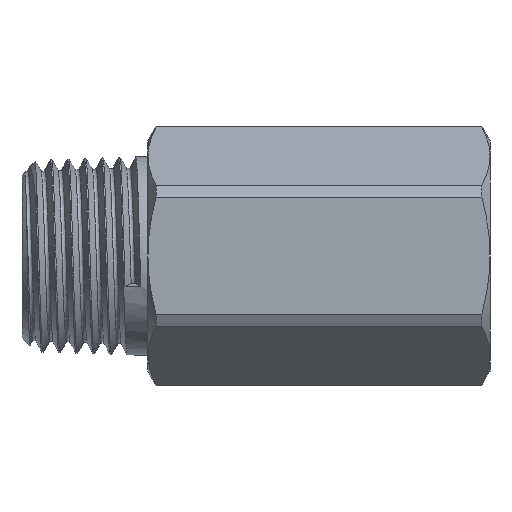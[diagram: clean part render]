
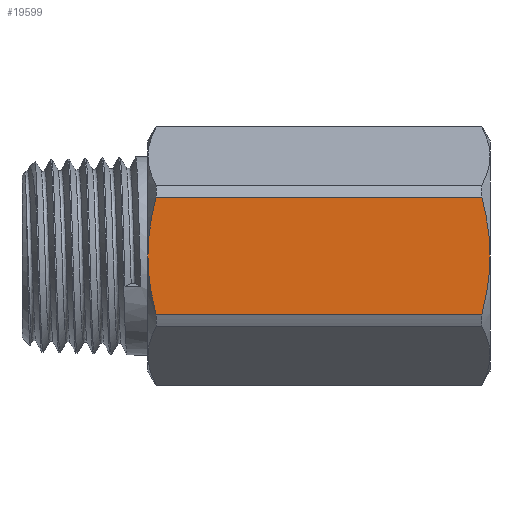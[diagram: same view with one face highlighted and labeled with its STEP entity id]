
A CAD part, front view. The second image highlights one B-rep face of the part: STEP entity #19599.
In plain terms, the highlighted planar face has unit normal (0, -1, 0).
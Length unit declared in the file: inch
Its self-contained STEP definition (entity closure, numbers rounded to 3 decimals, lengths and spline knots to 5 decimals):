
#250 = DIRECTION ( 'NONE',  ( 1., 0., 0. ) ) ;
#335 = B_SPLINE_CURVE_WITH_KNOTS ( 'NONE', 3,
 ( #23536, #8799, #14886, #5995, #4013, #17004, #4144, #25806, #12761, #10506, #3869, #2009, #8665, #19561, #4277, #10377 ),
 .UNSPECIFIED., .F., .F.,
 ( 4, 2, 2, 2, 1, 1, 2, 2, 4 ),
 ( 0., 0.125, 0.25, 0.375, 0.4375, 0.46875, 0.48437, 0.5, 1. ),
 .UNSPECIFIED. ) ;
#450 = VERTEX_POINT ( 'NONE', #26787 ) ;
#624 = B_SPLINE_CURVE_WITH_KNOTS ( 'NONE', 3,
 ( #3698, #20965, #23099, #7537, #25221, #3153, #1153, #7954, #22547, #27079, #1293, #5411, #3422, #18701, #12181, #16011, #20692, #12313, #14302 ),
 .UNSPECIFIED., .F., .F.,
 ( 4, 2, 2, 1, 2, 2, 2, 2, 2, 4 ),
 ( 0., 0.25, 0.375, 0.4375, 0.46875, 0.5, 0.625, 0.6875, 0.75, 1. ),
 .UNSPECIFIED. ) ;
#794 = CARTESIAN_POINT ( 'NONE',  ( -0.35567, -0.48228, 0.24587 ) ) ;
#1064 = VERTEX_POINT ( 'NONE', #15086 ) ;
#1153 = CARTESIAN_POINT ( 'NONE',  ( -0.3781, -0.48228, -0.14119 ) ) ;
#1249 = CARTESIAN_POINT ( 'NONE',  ( 1.03427, -0.48228, 0.12388 ) ) ;
#1293 = CARTESIAN_POINT ( 'NONE',  ( -0.38225, -0.48228, -0.11326 ) ) ;
#1835 = CARTESIAN_POINT ( 'NONE',  ( 1.04331, -0.48228, 0. ) ) ;
#1925 = ORIENTED_EDGE ( 'NONE', *, *, #3492, .T. ) ;
#2009 = CARTESIAN_POINT ( 'NONE',  ( -0.38103, -0.48228, 0.12174 ) ) ;
#2108 = CARTESIAN_POINT ( 'NONE',  ( 1.00921, -0.48228, -0.24587 ) ) ;
#2516 = CARTESIAN_POINT ( 'NONE',  ( 1.04331, -0.48228, 0. ) ) ;
#3153 = CARTESIAN_POINT ( 'NONE',  ( -0.37684, -0.48228, -0.14874 ) ) ;
#3422 = CARTESIAN_POINT ( 'NONE',  ( -0.38523, -0.48228, -0.08757 ) ) ;
#3492 = EDGE_CURVE ( 'NONE', #17497, #1064, #24114, .T. ) ;
#3516 = CARTESIAN_POINT ( 'NONE',  ( 1.00921, -0.48228, 0.24587 ) ) ;
#3698 = CARTESIAN_POINT ( 'NONE',  ( -0.35567, -0.48228, -0.24587 ) ) ;
#3812 = EDGE_CURVE ( 'NONE', #1064, #450, #20766, .T. ) ;
#3823 = CARTESIAN_POINT ( 'NONE',  ( 1.02209, -0.48228, -0.19345 ) ) ;
#3869 = CARTESIAN_POINT ( 'NONE',  ( -0.3814, -0.48228, 0.11913 ) ) ;
#3964 = CARTESIAN_POINT ( 'NONE',  ( 1.03395, -0.48228, -0.12607 ) ) ;
#4013 = CARTESIAN_POINT ( 'NONE',  ( -0.38823, -0.48228, 0.05179 ) ) ;
#4144 = CARTESIAN_POINT ( 'NONE',  ( -0.38575, -0.48228, 0.08282 ) ) ;
#4277 = CARTESIAN_POINT ( 'NONE',  ( -0.36657, -0.48228, 0.20429 ) ) ;
#4724 = VERTEX_POINT ( 'NONE', #19560 ) ;
#4979 = ORIENTED_EDGE ( 'NONE', *, *, #3812, .T. ) ;
#4994 = LINE ( 'NONE', #7272, #21515 ) ;
#5411 = CARTESIAN_POINT ( 'NONE',  ( -0.38355, -0.48228, -0.10298 ) ) ;
#5732 = ORIENTED_EDGE ( 'NONE', *, *, #14504, .F. ) ;
#5786 = CARTESIAN_POINT ( 'NONE',  ( 1.03547, -0.48228, 0.11527 ) ) ;
#5985 = LINE ( 'NONE', #20985, #21636 ) ;
#5995 = CARTESIAN_POINT ( 'NONE',  ( -0.3888, -0.48228, 0.04139 ) ) ;
#6003 = ORIENTED_EDGE ( 'NONE', *, *, #19527, .F. ) ;
#6495 = CARTESIAN_POINT ( 'NONE',  ( 1.04331, -0.48228, -0.04056 ) ) ;
#7272 = CARTESIAN_POINT ( 'NONE',  ( -0.91732, -0.48228, -0.24587 ) ) ;
#7537 = CARTESIAN_POINT ( 'NONE',  ( -0.37226, -0.48227, -0.17395 ) ) ;
#7636 = CARTESIAN_POINT ( 'NONE',  ( 1.04217, -0.48228, 0.05128 ) ) ;
#7954 = CARTESIAN_POINT ( 'NONE',  ( -0.37927, -0.48228, -0.13365 ) ) ;
#8237 = ORIENTED_EDGE ( 'NONE', *, *, #26298, .F. ) ;
#8619 = CARTESIAN_POINT ( 'NONE',  ( 1.04031, -0.48228, -0.08177 ) ) ;
#8665 = CARTESIAN_POINT ( 'NONE',  ( -0.38084, -0.48228, 0.1231 ) ) ;
#8799 = CARTESIAN_POINT ( 'NONE',  ( -0.38976, -0.48228, 0.01037 ) ) ;
#8884 = DIRECTION ( 'NONE',  ( 0., 0., -1. ) ) ;
#9041 = EDGE_CURVE ( 'NONE', #4724, #25436, #624, .T. ) ;
#9558 = EDGE_LOOP ( 'NONE', ( #21873, #5732, #1925, #4979, #6003, #8237 ) ) ;
#9890 = CARTESIAN_POINT ( 'NONE',  ( 1.03484, -0.48228, 0.11988 ) ) ;
#10377 = CARTESIAN_POINT ( 'NONE',  ( -0.35567, -0.48228, 0.24587 ) ) ;
#10506 = CARTESIAN_POINT ( 'NONE',  ( -0.38193, -0.48228, 0.11522 ) ) ;
#10736 = CARTESIAN_POINT ( 'NONE',  ( 1.03304, -0.48228, -0.13219 ) ) ;
#11003 = DIRECTION ( 'NONE',  ( 0., -1., 0. ) ) ;
#12181 = CARTESIAN_POINT ( 'NONE',  ( -0.38668, -0.48229, -0.07218 ) ) ;
#12313 = CARTESIAN_POINT ( 'NONE',  ( -0.38976, -0.48228, -0.02065 ) ) ;
#12580 = CARTESIAN_POINT ( 'NONE',  ( 1.03413, -0.48228, -0.12485 ) ) ;
#12761 = CARTESIAN_POINT ( 'NONE',  ( -0.38313, -0.48228, 0.10612 ) ) ;
#13614 = VERTEX_POINT ( 'NONE', #794 ) ;
#14302 = CARTESIAN_POINT ( 'NONE',  ( -0.38976, -0.48228, 0. ) ) ;
#14504 = EDGE_CURVE ( 'NONE', #17497, #4724, #4994, .T. ) ;
#14695 = CARTESIAN_POINT ( 'NONE',  ( 1.01478, -0.48228, -0.22464 ) ) ;
#14874 = FACE_OUTER_BOUND ( 'NONE', #9558, .T. ) ;
#14886 = CARTESIAN_POINT ( 'NONE',  ( -0.38957, -0.48228, 0.0207 ) ) ;
#15086 = CARTESIAN_POINT ( 'NONE',  ( 1.04331, -0.48228, 0. ) ) ;
#15330 = CARTESIAN_POINT ( 'NONE',  ( 1.00921, -0.48228, -0.24587 ) ) ;
#16011 = CARTESIAN_POINT ( 'NONE',  ( -0.3871, -0.48229, -0.0671 ) ) ;
#17004 = CARTESIAN_POINT ( 'NONE',  ( -0.3867, -0.48228, 0.07248 ) ) ;
#17414 = CARTESIAN_POINT ( 'NONE',  ( -0.38976, -0.48228, 0. ) ) ;
#17497 = VERTEX_POINT ( 'NONE', #15330 ) ;
#17652 = CARTESIAN_POINT ( 'NONE',  ( 1.04331, -0.48228, 0.02041 ) ) ;
#18378 = CARTESIAN_POINT ( 'NONE',  ( 1.02859, -0.48228, 0.16326 ) ) ;
#18701 = CARTESIAN_POINT ( 'NONE',  ( -0.38574, -0.48228, -0.08244 ) ) ;
#18969 = CARTESIAN_POINT ( 'NONE',  ( 1.0317, -0.48228, -0.14081 ) ) ;
#19527 = EDGE_CURVE ( 'NONE', #13614, #450, #5985, .T. ) ;
#19560 = CARTESIAN_POINT ( 'NONE',  ( -0.35567, -0.48228, -0.24587 ) ) ;
#19561 = CARTESIAN_POINT ( 'NONE',  ( -0.3749, -0.48228, 0.16429 ) ) ;
#19599 = ADVANCED_FACE ( 'NONE', ( #14874 ), #27779, .T. ) ;
#20219 = CARTESIAN_POINT ( 'NONE',  ( 1.03456, -0.48228, 0.12186 ) ) ;
#20692 = CARTESIAN_POINT ( 'NONE',  ( -0.389, -0.48229, -0.04118 ) ) ;
#20766 = B_SPLINE_CURVE_WITH_KNOTS ( 'NONE', 3,
 ( #2516, #17652, #7636, #25040, #26884, #5786, #9890, #20219, #22911, #1249, #18378, #27167, #3516 ),
 .UNSPECIFIED., .F., .F.,
 ( 4, 1, 1, 1, 1, 1, 2, 2, 4 ),
 ( 0., 0.25, 0.375, 0.4375, 0.46875, 0.48437, 0.49219, 0.5, 1. ),
 .UNSPECIFIED. ) ;
#20965 = CARTESIAN_POINT ( 'NONE',  ( -0.36115, -0.48228, -0.22495 ) ) ;
#20985 = CARTESIAN_POINT ( 'NONE',  ( -0.91732, -0.48228, 0.24587 ) ) ;
#21200 = AXIS2_PLACEMENT_3D ( 'NONE', #21910, #11003, #8884 ) ;
#21233 = CARTESIAN_POINT ( 'NONE',  ( 1.03421, -0.48228, -0.12428 ) ) ;
#21515 = VECTOR ( 'NONE', #22273, 39.37008 ) ;
#21636 = VECTOR ( 'NONE', #250, 39.37008 ) ;
#21873 = ORIENTED_EDGE ( 'NONE', *, *, #9041, .F. ) ;
#21910 = CARTESIAN_POINT ( 'NONE',  ( 1.20866, -0.48228, -0.27845 ) ) ;
#22273 = DIRECTION ( 'NONE',  ( -1., 0., 0. ) ) ;
#22547 = CARTESIAN_POINT ( 'NONE',  ( -0.38003, -0.48228, -0.12863 ) ) ;
#22911 = CARTESIAN_POINT ( 'NONE',  ( 1.03437, -0.48228, 0.12317 ) ) ;
#23099 = CARTESIAN_POINT ( 'NONE',  ( -0.36599, -0.48227, -0.20442 ) ) ;
#23359 = CARTESIAN_POINT ( 'NONE',  ( 1.0288, -0.48228, -0.15817 ) ) ;
#23536 = CARTESIAN_POINT ( 'NONE',  ( -0.38976, -0.48228, 0. ) ) ;
#24114 = B_SPLINE_CURVE_WITH_KNOTS ( 'NONE', 3,
 ( #2108, #14695, #3823, #23359, #18969, #10736, #28018, #3964, #12580, #21233, #8619, #6495, #1835 ),
 .UNSPECIFIED., .F., .F.,
 ( 4, 1, 1, 1, 1, 1, 2, 2, 4 ),
 ( 0., 0.25, 0.375, 0.4375, 0.46875, 0.48438, 0.49219, 0.5, 1. ),
 .UNSPECIFIED. ) ;
#25040 = CARTESIAN_POINT ( 'NONE',  ( 1.03884, -0.48228, 0.08774 ) ) ;
#25221 = CARTESIAN_POINT ( 'NONE',  ( -0.37419, -0.48228, -0.16385 ) ) ;
#25436 = VERTEX_POINT ( 'NONE', #17414 ) ;
#25806 = CARTESIAN_POINT ( 'NONE',  ( -0.38405, -0.48228, 0.09835 ) ) ;
#26298 = EDGE_CURVE ( 'NONE', #25436, #13614, #335, .T. ) ;
#26787 = CARTESIAN_POINT ( 'NONE',  ( 1.00921, -0.48228, 0.24587 ) ) ;
#26884 = CARTESIAN_POINT ( 'NONE',  ( 1.03668, -0.48228, 0.10608 ) ) ;
#27079 = CARTESIAN_POINT ( 'NONE',  ( -0.38039, -0.48228, -0.12619 ) ) ;
#27167 = CARTESIAN_POINT ( 'NONE',  ( 1.02026, -0.48228, 0.20372 ) ) ;
#27779 = PLANE ( 'NONE',  #21200 ) ;
#28018 = CARTESIAN_POINT ( 'NONE',  ( 1.03368, -0.48228, -0.12791 ) ) ;
